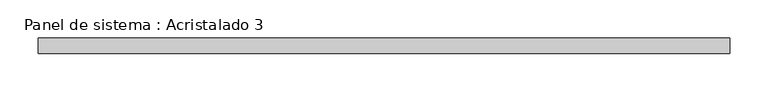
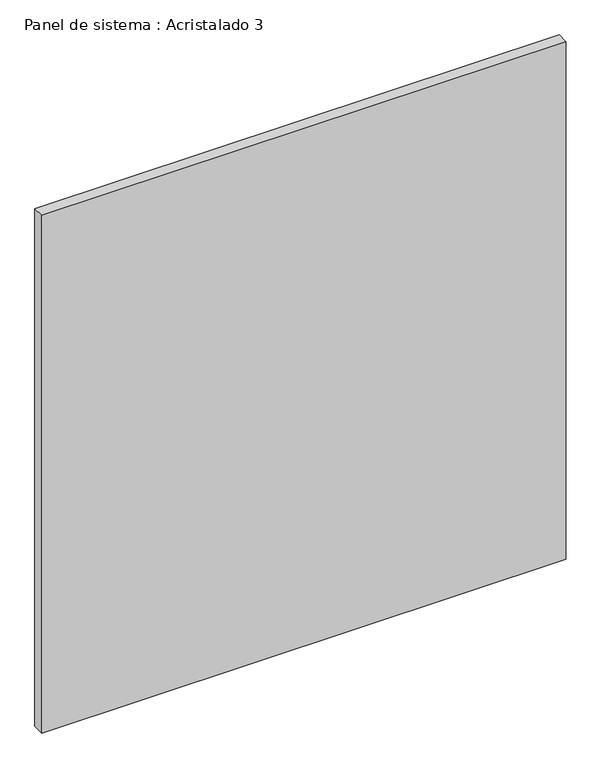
"""IFC4 building model written with IfcOpenShell, lengths in millimetres: plate geometry, Panel de sistema : Acristalado 3."""

from ifc_helpers import new_model, si_unit, origin, origin_with_axes, place, context, project, spatial, polyline, outline, extrude, source, transform, mapped, element, save


def panel_de_sistema_acristalado_3_415e53f6(model_context):
    return source(origin(), model_context, "Body", "SweptSolid", [
        extrude(outline(polyline([(448.8888889, -110.0), (-448.8888889, -110.0), (-448.8888889, -90.0), (448.8888889, -90.0), (448.8888889, -110.0)])), origin_with_axes(), (0.0, 0.0, 1.0), 936.3914841),
    ])


if __name__ == "__main__":
    model = new_model("IFC4")
    model_context = context("Model", 3, world=origin())
    ifc_project = project(units=[si_unit("LENGTHUNIT", "METRE", prefix="MILLI")], contexts=[model_context])
    site = spatial("IfcSite", under=ifc_project)
    building = spatial("IfcBuilding", under=site)
    placement = place(None, origin())
    panel_de_sistema_acristalado_3_shape = panel_de_sistema_acristalado_3_415e53f6(model_context)
    element("IfcPlate", 1, ObjectType="Panel de sistema : Acristalado 3", at=placement, inside=building, context=model_context, shape_type="MappedRepresentation", body=[
        mapped(panel_de_sistema_acristalado_3_shape, transform((0.0, 0.0, 0.0), x_axis=(1.0, 0.0, 0.0), y_axis=(0.0, 1.0, 0.0), z_axis=(0.0, 0.0, 1.0))),
    ])
    save(model, "model.ifc")
